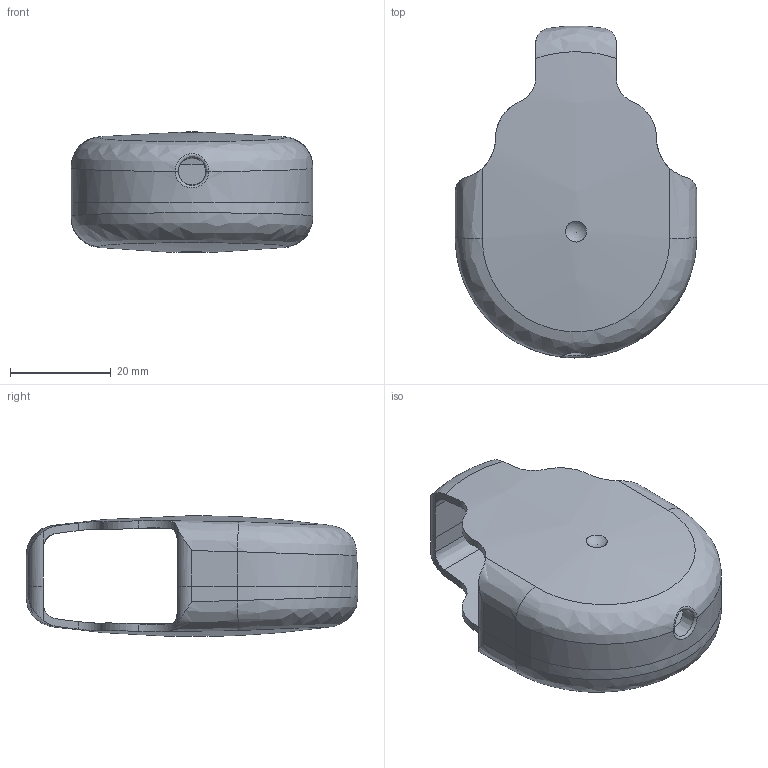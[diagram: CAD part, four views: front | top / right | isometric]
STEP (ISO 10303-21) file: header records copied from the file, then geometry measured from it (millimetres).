
FILE_DESCRIPTION(/* description */ (''),/* implementation_level */ '2;1');
FILE_NAME(/* name */ 'CP18-3.stp',/* time_stamp */ '2019-05-04T08:19:09+08:00',/* author */ (''),/* organization */ (''),/* preprocessor_version */ 'ST-DEVELOPER v16',/* originating_system */ 'SIEMENS PLM Software NX 10.0',/* authorisation */ '');
FILE_SCHEMA (('AUTOMOTIVE_DESIGN { 1 0 10303 214 3 1 1 1 }'));
Length unit declared in the file: millimetre
Products named in the file (1): CP18-3
Bounding box: 48 x 65.94 x 23.95 mm (x, y, z)
Volume: 11946.4 mm3; surface area: 12897 mm2
Topology: 2 solids, 2 shells, 110 faces, 263 edges, 169 vertices
Faces by surface type: cylinder 34, plane 32, bspline 31, cone 11, sphere 2
Full cylindrical faces by diameter (mm): 12.8 x2, 16 x2, 26.8 x2, 30 x2
Entity records: 4789 total; most frequent: CARTESIAN_POINT 2645, ORIENTED_EDGE 468, DIRECTION 318, EDGE_CURVE 234, VERTEX_POINT 162, EDGE_LOOP 148, AXIS2_PLACEMENT_3D 128, B_SPLINE_CURVE_WITH_KNOTS 125
